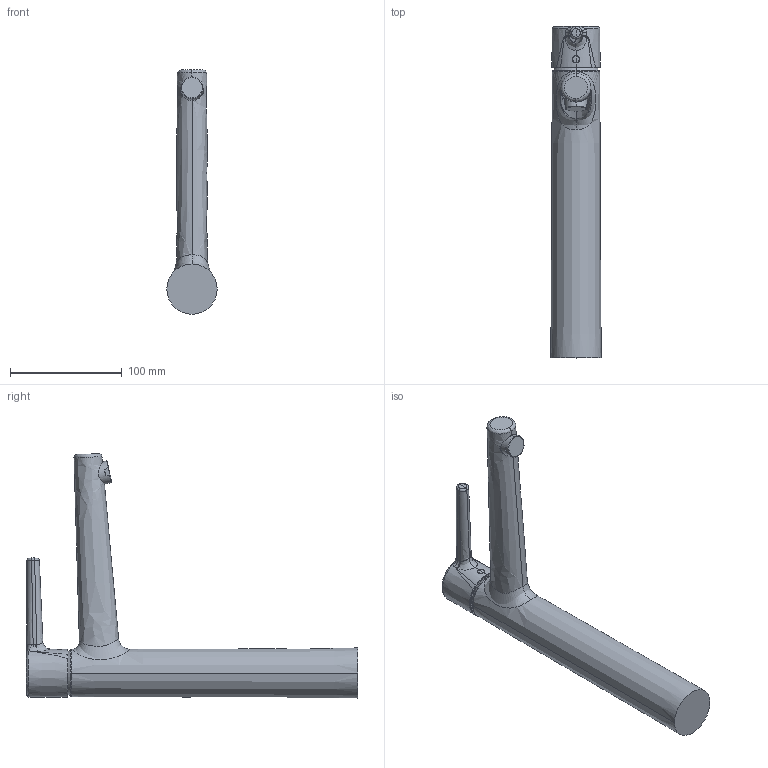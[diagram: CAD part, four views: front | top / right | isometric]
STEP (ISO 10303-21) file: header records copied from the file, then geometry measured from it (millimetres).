
FILE_DESCRIPTION((''),'2;1');
FILE_NAME('509517','2020-04-30T16:05:14',('DB991'),(''),'CREO PARAMETRIC BY PTC INC, 2018500','CREO PARAMETRIC BY PTC INC, 2018500','');
FILE_SCHEMA(('CONFIG_CONTROL_DESIGN'));
Length unit declared in the file: millimetre
Products named in the file (1): 509517
Bounding box: 45 x 297 x 218.71 mm (x, y, z)
Volume: 572411.9 mm3; surface area: 63760.5 mm2
Topology: 1 solids, 1 shells, 96 faces, 224 edges, 130 vertices
Faces by surface type: bspline 28, torus 24, plane 14, cylinder 14, cone 8, sphere 8
Entity records: 20326 total; most frequent: CARTESIAN_POINT 18381, ORIENTED_EDGE 434, DIRECTION 336, EDGE_CURVE 217, AXIS2_PLACEMENT_3D 151, VERTEX_POINT 130, EDGE_LOOP 103, B_SPLINE_CURVE_WITH_KNOTS 100
